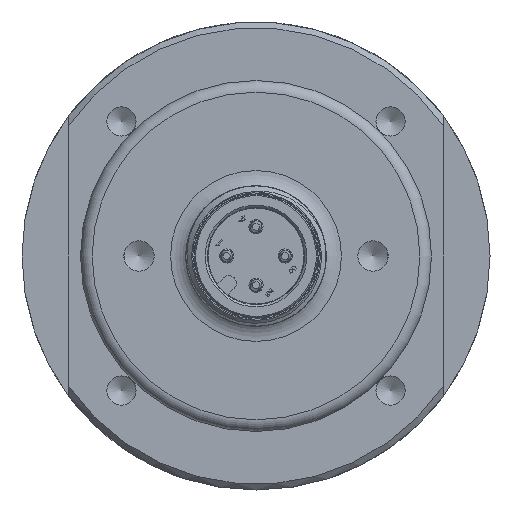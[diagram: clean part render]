
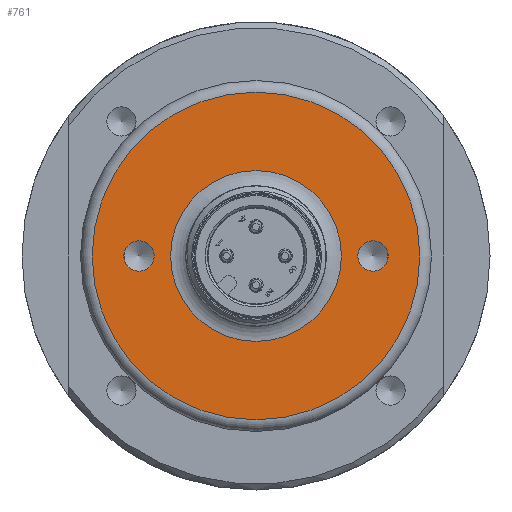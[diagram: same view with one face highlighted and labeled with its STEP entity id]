
A CAD part, front view. The second image highlights one B-rep face of the part: STEP entity #761.
In plain terms, the highlighted planar face has unit normal (0, -1, 0) as drawn and (0, 1, 0) by its records, which use the part's own axes.
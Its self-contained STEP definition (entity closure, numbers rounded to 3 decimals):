
#761 = ADVANCED_FACE( '', ( #1535, #1536, #1537, #1538 ), #1539, .T. );
#1535 = FACE_BOUND( '', #4105, .T. );
#1536 = FACE_OUTER_BOUND( '', #4106, .T. );
#1537 = FACE_BOUND( '', #4107, .T. );
#1538 = FACE_BOUND( '', #4108, .T. );
#1539 = PLANE( '', #4109 );
#4105 = EDGE_LOOP( '', ( #7829 ) );
#4106 = EDGE_LOOP( '', ( #7830 ) );
#4107 = EDGE_LOOP( '', ( #7831 ) );
#4108 = EDGE_LOOP( '', ( #7832 ) );
#4109 = AXIS2_PLACEMENT_3D( '', #7833, #7834, #7835 );
#7829 = ORIENTED_EDGE( '', *, *, #8501, .T. );
#7830 = ORIENTED_EDGE( '', *, *, #8522, .T. );
#7831 = ORIENTED_EDGE( '', *, *, #8940, .T. );
#7832 = ORIENTED_EDGE( '', *, *, #8809, .T. );
#7833 = CARTESIAN_POINT( '', ( -15., -2.104, 0. ) );
#7834 = DIRECTION( '', ( 0., 1., 0. ) );
#7835 = DIRECTION( '', ( -1., 0., 0. ) );
#8501 = EDGE_CURVE( '', #9189, #9189, #9190, .F. );
#8522 = EDGE_CURVE( '', #9225, #9225, #9226, .T. );
#8809 = EDGE_CURVE( '', #9668, #9668, #9669, .T. );
#8940 = EDGE_CURVE( '', #9849, #9849, #9850, .T. );
#9189 = VERTEX_POINT( '', #10683 );
#9190 = CIRCLE( '', #10684, 7.3 );
#9225 = VERTEX_POINT( '', #10724 );
#9226 = CIRCLE( '', #10725, 14. );
#9668 = VERTEX_POINT( '', #12771 );
#9669 = CIRCLE( '', #12772, 1.3 );
#9849 = VERTEX_POINT( '', #13686 );
#9850 = CIRCLE( '', #13687, 1.3 );
#10683 = CARTESIAN_POINT( '', ( -7.3, -2.104, 0. ) );
#10684 = AXIS2_PLACEMENT_3D( '', #14093, #14094, #14095 );
#10724 = CARTESIAN_POINT( '', ( -14., -2.104, 0. ) );
#10725 = AXIS2_PLACEMENT_3D( '', #14131, #14132, #14133 );
#12771 = CARTESIAN_POINT( '', ( -1.3, -2.104, 10. ) );
#12772 = AXIS2_PLACEMENT_3D( '', #14426, #14427, #14428 );
#13686 = CARTESIAN_POINT( '', ( -1.3, -2.104, -10. ) );
#13687 = AXIS2_PLACEMENT_3D( '', #14529, #14530, #14531 );
#14093 = CARTESIAN_POINT( '', ( 0., -2.104, 0. ) );
#14094 = DIRECTION( '', ( 0., 1., 0. ) );
#14095 = DIRECTION( '', ( -1., 0., 0. ) );
#14131 = CARTESIAN_POINT( '', ( 0., -2.104, 0. ) );
#14132 = DIRECTION( '', ( 0., 1., 0. ) );
#14133 = DIRECTION( '', ( -1., 0., 0. ) );
#14426 = CARTESIAN_POINT( '', ( 0., -2.104, 10. ) );
#14427 = DIRECTION( '', ( 0., -1., 0. ) );
#14428 = DIRECTION( '', ( -1., 0., 0. ) );
#14529 = CARTESIAN_POINT( '', ( 0., -2.104, -10. ) );
#14530 = DIRECTION( '', ( 0., -1., 0. ) );
#14531 = DIRECTION( '', ( -1., 0., 0. ) );
